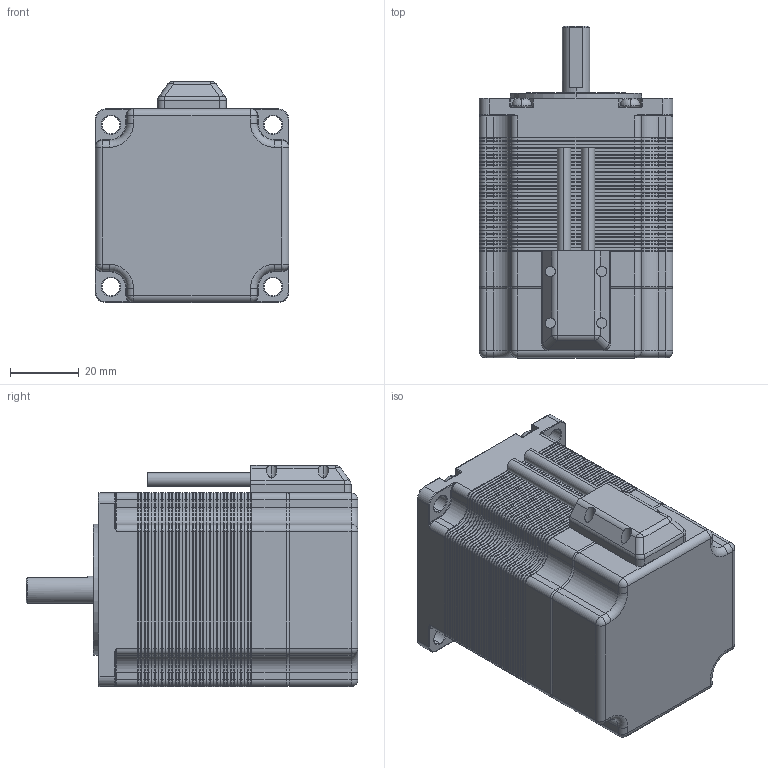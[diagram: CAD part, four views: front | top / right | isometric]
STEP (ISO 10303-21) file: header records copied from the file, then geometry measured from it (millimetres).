
FILE_DESCRIPTION (( 'STEP AP214' ), '1' );
FILE_NAME ('Nema 23 Stepper Motor length_56_mm_8mm_ENC.STEP', '2020-11-11T16:06:37', ( 'Moofasta' ), ( '' ), 'SwSTEP 2.0', 'SolidWorks 2020', '' );
FILE_SCHEMA (( 'AUTOMOTIVE_DESIGN' ));
Length unit declared in the file: millimetre
Products named in the file (1): Nema 23 Stepper Motor length_56_mm_8mm_ENC
Bounding box: 56.3 x 96.5 x 64.3 mm (x, y, z)
Volume: 222665.5 mm3; surface area: 219608.3 mm2
Topology: 41 solids, 42 shells, 2947 faces, 6737 edges, 3857 vertices
Faces by surface type: plane 1435, cone 820, cylinder 570, torus 94, sphere 20, bspline 8
Entity records: 110480 total; most frequent: DIRECTION 14601, CARTESIAN_POINT 14090, ORIENTED_EDGE 13422, EDGE_CURVE 6711, AXIS2_PLACEMENT_3D 5040, VECTOR 4521, LINE 4521, VERTEX_POINT 3857
